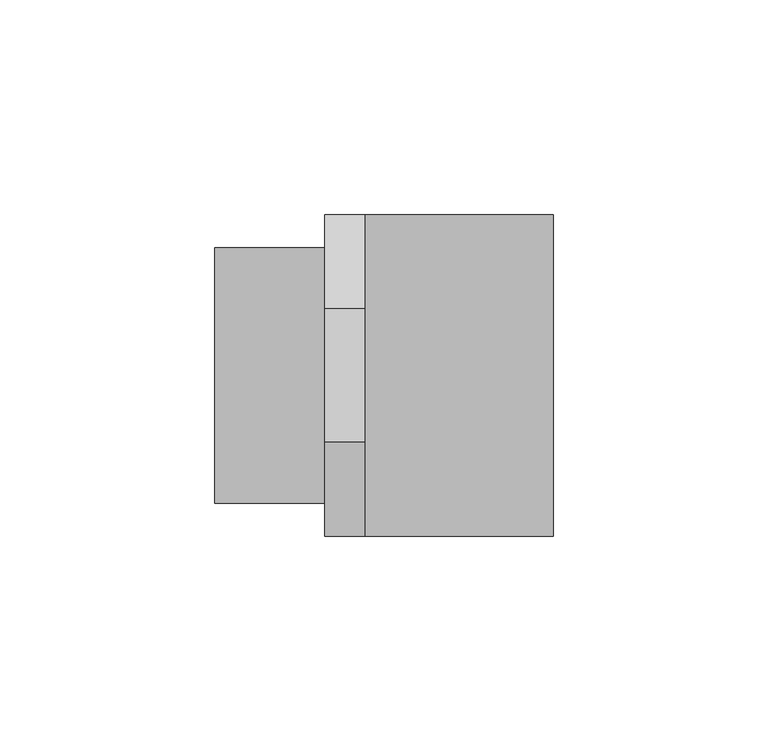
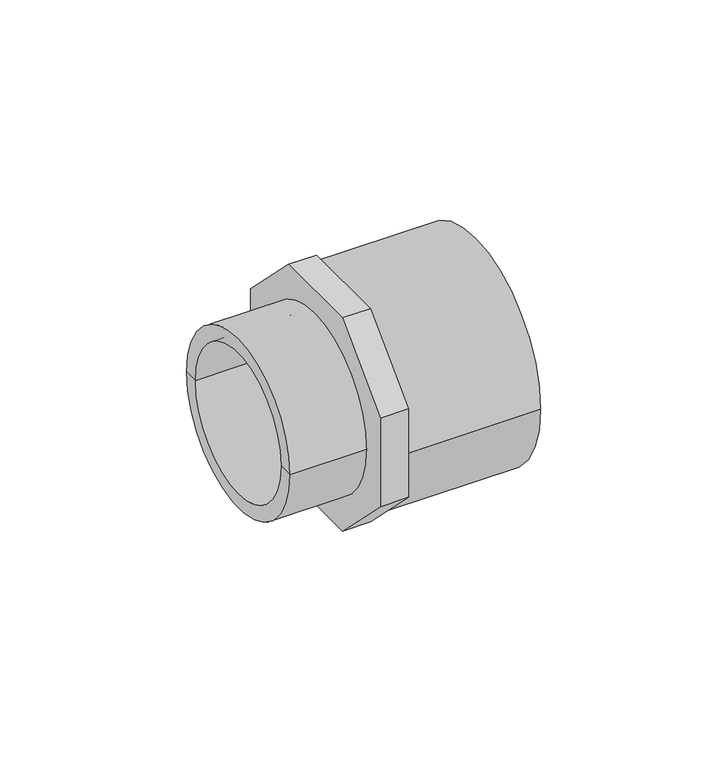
"""IFC4 building model written with IfcOpenShell, lengths in millimetres: pipe fitting geometry, Durapipe_PipeFitting_PVC_MaleThreadedAdaptors : 75 x 63 x G2."""

from ifc_helpers import new_model, si_unit, point, frame, origin, origin_2d, place, context, project, spatial, polyline, circle_curve, trimmed, segment, composite_curve, outline, extrude, source, transform, mapped, element, save
from ifc_brep_helpers import plane_surface, cylinder_surface, revolved_surface, advanced_brep


def pipe_fitting_c08f262e(model_context):
    return source(origin(), model_context, "Body", "SolidModel", [
        extrude(outline(polyline([(37.5, 15.5330086), (37.5, -15.5330086), (15.5330086, -37.5), (-15.5330086, -37.5), (-37.5, -15.5330086), (-37.5, 15.5330086), (-15.5330086, 37.5), (15.5330086, 37.5), (37.5, 15.5330086)]), holes=[composite_curve([segment(trimmed(circle_curve(origin_2d(), 24.8), [point((24.8, 0.0))], [point((-24.8, 0.0))], True, "CARTESIAN"), True, "CONTINUOUS"), segment(trimmed(circle_curve(origin_2d(), 24.8), [point((-24.8, 0.0))], [point((24.8, 0.0))], True, "CARTESIAN"), True, "CONTINUOUS")], self_intersect=False)]), frame((-9.3, 0.0, 0.0), z_axis=(1.0, 0.0, 0.0), x_axis=(0.0, 1.0, 0.0)), (0.0, 0.0, 1.0), 9.3),
        advanced_brep(
        [(0.0, -37.5, 0.0), (0.0, 37.5, 0.0), (44.0, 37.5, 0.0), (44.0, -37.5, 0.0), (44.0, 31.5, 0.0), (44.0, -31.5, 0.0), (0.0, 0.0, 0.0), (6.0, 31.5, 0.0), (6.0, -31.5, 0.0), (6.0, 0.0, 0.0)],
        [
            (0, 1, circle_curve(frame((0.0, 0.0, 0.0), z_axis=(1.0, 0.0, 0.0), x_axis=(0.0, 1.0, 0.0)), 37.5)),
            (1, 2),
            (2, 3, circle_curve(frame((44.0, 0.0, 0.0), z_axis=(-1.0, 0.0, 0.0), x_axis=(0.0, 1.0, 0.0)), 37.5)),
            (3, 0),
            (1, 0, circle_curve(frame((0.0, 0.0, 0.0), z_axis=(1.0, 0.0, 0.0), x_axis=(0.0, 1.0, 0.0)), 37.5)),
            (3, 2, circle_curve(frame((44.0, 0.0, 0.0), z_axis=(-1.0, 0.0, 0.0), x_axis=(0.0, 1.0, 0.0)), 37.5)),
            (2, 4),
            (4, 5, circle_curve(frame((44.0, 0.0, 0.0), z_axis=(-1.0, 0.0, 0.0), x_axis=(0.0, 1.0, 0.0)), 31.5)),
            (5, 3),
            (5, 4, circle_curve(frame((44.0, 0.0, 0.0), z_axis=(-1.0, 0.0, 0.0), x_axis=(0.0, 1.0, 0.0)), 31.5)),
            (0, 6),
            (6, 1),
            (7, 8, circle_curve(frame((6.0, 0.0, 0.0), z_axis=(-1.0, 0.0, 0.0), x_axis=(0.0, 1.0, 0.0)), 31.5)),
            (8, 5),
            (4, 7),
            (8, 7, circle_curve(frame((6.0, 0.0, 0.0), z_axis=(-1.0, 0.0, 0.0), x_axis=(0.0, 1.0, 0.0)), 31.5)),
            (7, 9),
            (9, 8),
        ],
        [
            cylinder_surface(frame((445.4572068, 0.0, 0.0), z_axis=(-1.0, 0.0, 0.0), x_axis=(0.0, 1.0, 0.0)), 37.5),
            plane_surface(frame((44.0, 0.0, 0.0), z_axis=(1.0, 0.0, 0.0), x_axis=(0.0, 1.0, 0.0))),
            plane_surface(frame((0.0, 0.0, 0.0), z_axis=(-1.0, 0.0, 0.0), x_axis=(0.0, 1.0, 0.0))),
            revolved_surface(polyline([(6.0, 31.5, 0.0), (44.0, 31.5, 0.0)]), (57.5575137, 0.0, 0.0), (-1.0, 0.0, 0.0)),
            plane_surface(frame((6.0, 0.0, 0.0), z_axis=(1.0, 0.0, 0.0), x_axis=(0.0, 1.0, 0.0))),
        ],
        [
            (0, [[1, 2, 3, 4]]),
            (0, [[-2, 5, -4, 6]]),
            (1, [[-3, 7, 8, 9]]),
            (1, [[-6, -9, 10, -7]]),
            (2, [[-1, 11, 12]]),
            (2, [[-5, -12, -11]]),
            (3, [[13, 14, -8, 15]]),
            (3, [[16, -15, -10, -14]]),
            (4, [[-13, 17, 18]]),
            (4, [[-16, -18, -17]]),
        ],
    ),
        advanced_brep(
        [(-9.3, -24.8, 0.0), (-9.3, 24.8, 0.0), (-35.0, 24.8, 0.0), (-35.0, -24.8, 0.0), (-9.3, -29.8, 0.0), (-9.3, 29.8, 0.0), (-35.0, -29.8, 0.0), (-35.0, 29.8, 0.0)],
        [
            (0, 1, circle_curve(frame((-9.3, 0.0, 0.0), z_axis=(1.0, 0.0, 0.0), x_axis=(0.0, 1.0, 0.0)), 24.8)),
            (1, 2),
            (2, 3, circle_curve(frame((-35.0, 0.0, 0.0), z_axis=(-1.0, 0.0, 0.0), x_axis=(0.0, 1.0, 0.0)), 24.8)),
            (3, 0),
            (1, 0, circle_curve(frame((-9.3, 0.0, 0.0), z_axis=(1.0, 0.0, 0.0), x_axis=(0.0, 1.0, 0.0)), 24.8)),
            (3, 2, circle_curve(frame((-35.0, 0.0, 0.0), z_axis=(-1.0, 0.0, 0.0), x_axis=(0.0, 1.0, 0.0)), 24.8)),
            (4, 5, circle_curve(frame((-9.3, 0.0, 0.0), z_axis=(1.0, 0.0, 0.0), x_axis=(0.0, 1.0, 0.0)), 29.8)),
            (5, 1),
            (0, 4),
            (5, 4, circle_curve(frame((-9.3, 0.0, 0.0), z_axis=(1.0, 0.0, 0.0), x_axis=(0.0, 1.0, 0.0)), 29.8)),
            (6, 7, circle_curve(frame((-35.0, 0.0, 0.0), z_axis=(1.0, 0.0, 0.0), x_axis=(0.0, 1.0, 0.0)), 29.8)),
            (7, 5),
            (4, 6),
            (7, 6, circle_curve(frame((-35.0, 0.0, 0.0), z_axis=(1.0, 0.0, 0.0), x_axis=(0.0, 1.0, 0.0)), 29.8)),
            (2, 7),
            (6, 3),
        ],
        [
            revolved_surface(polyline([(-35.0, 24.8, 0.0), (-9.299999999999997, 24.8, 0.0)]), (-50.0, 0.0, 0.0), (-1.0, 0.0, 0.0)),
            plane_surface(frame((-9.3, 0.0, 0.0), z_axis=(1.0, 0.0, 0.0), x_axis=(0.0, 1.0, 0.0))),
            cylinder_surface(frame((-50.0, 0.0, 0.0), z_axis=(-1.0, 0.0, 0.0), x_axis=(0.0, 1.0, 0.0)), 29.8),
            plane_surface(frame((-35.0, 0.0, 0.0), z_axis=(-1.0, 0.0, 0.0), x_axis=(0.0, 1.0, 0.0))),
        ],
        [
            (0, [[1, 2, 3, 4]]),
            (0, [[5, -4, 6, -2]]),
            (1, [[7, 8, -1, 9]]),
            (1, [[10, -9, -5, -8]]),
            (2, [[11, 12, -7, 13]]),
            (2, [[14, -13, -10, -12]]),
            (3, [[-3, 15, -11, 16]]),
            (3, [[-6, -16, -14, -15]]),
        ],
    ),
    ])


if __name__ == "__main__":
    model = new_model("IFC4")
    model_context = context("Model", 3, world=origin())
    ifc_project = project(units=[si_unit("LENGTHUNIT", "METRE", prefix="MILLI")], contexts=[model_context])
    site = spatial("IfcSite", under=ifc_project)
    building = spatial("IfcBuilding", under=site)
    placement = place(None, origin())
    pipe_fitting_shape = pipe_fitting_c08f262e(model_context)
    element("IfcPipeFitting", 1, ObjectType="Durapipe_PipeFitting_PVC_MaleThreadedAdaptors : 75 x 63 x G2", at=placement, inside=building, context=model_context, shape_type="MappedRepresentation", body=[
        mapped(pipe_fitting_shape, transform((0.0, 0.0, 0.0), x_axis=(1.0, 0.0, 0.0), y_axis=(0.0, 1.0, 0.0), z_axis=(0.0, 0.0, 1.0))),
    ])
    save(model, "model.ifc")
